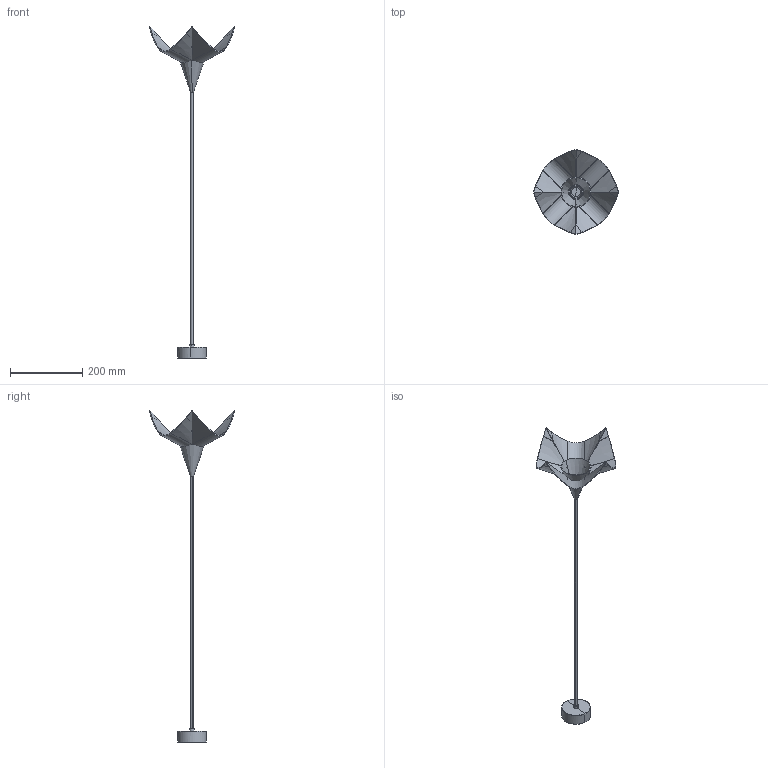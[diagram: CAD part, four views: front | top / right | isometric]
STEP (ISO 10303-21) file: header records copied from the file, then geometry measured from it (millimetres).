
FILE_DESCRIPTION(/* description */ (''),/* implementation_level */ '2;1');
FILE_NAME(/* name */ 'C:\Users\Franco Sartori E\Documents\FARO\DUPLICADO\Modelos\01_Digitalizados\0_FAUNA\03_Publicación\66235.stp',/* time_stamp */ '2020-10-26T10:07:01+01:00',/* author */ ('Franco Sartori E'),/* organization */ (''),/* preprocessor_version */ 'ST-DEVELOPER v18.1',/* originating_system */ 'AutoCAD Mechanical',/* authorisation */ '');
FILE_SCHEMA (('AUTOMOTIVE_DESIGN { 1 0 10303 214 3 1 1 }'));
Length unit declared in the file: millimetre
Products named in the file (4): Product; 66233_66234_66235_66236_SP - ceiling support-632440-_3D_; 66233_66234_66235_66236_SH - Shade-632831-_3D_; 66233_66234_66235_66236_LH - Lamp Holder-631668-_3D_
Assembly tree (3 placements, depth 2):
  Product
    66233_66234_66235_66236_SP - ceiling support-632440-_3D_
    66233_66234_66235_66236_SH - Shade-632831-_3D_
    66233_66234_66235_66236_LH - Lamp Holder-631668-_3D_
Bounding box: 235.59 x 235.59 x 918.66 mm (x, y, z)
Volume: 184982.9 mm3; surface area: 184010.8 mm2
Topology: 9 solids, 9 shells, 136 faces, 322 edges, 200 vertices
Faces by surface type: plane 50, bspline 36, cylinder 34, cone 14, torus 2
Entity records: 5205 total; most frequent: CARTESIAN_POINT 2171, ORIENTED_EDGE 644, DIRECTION 526, EDGE_CURVE 322, VERTEX_POINT 200, AXIS2_PLACEMENT_3D 183, LINE 160, VECTOR 160
